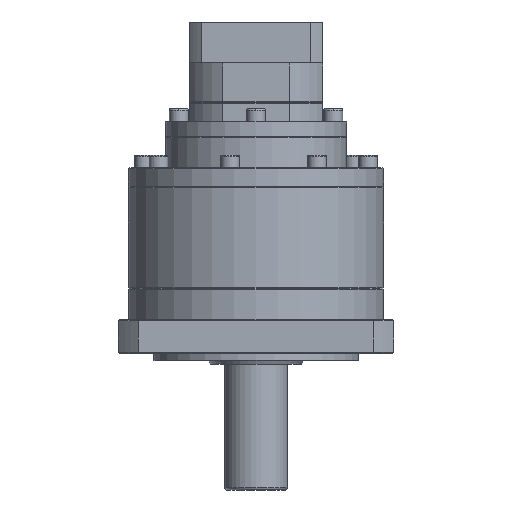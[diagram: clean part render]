
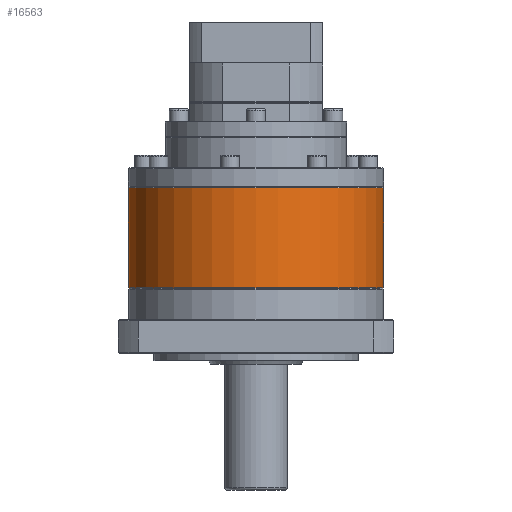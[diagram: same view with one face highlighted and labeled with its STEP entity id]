
A CAD part, front view. The second image highlights one B-rep face of the part: STEP entity #16563.
In plain terms, the highlighted cylindrical face has radius 81 mm (diameter 162 mm), a partial arc.
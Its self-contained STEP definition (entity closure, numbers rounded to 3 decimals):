
#2258 = CARTESIAN_POINT ( 'NONE',  ( 19.322, 43.717, -118.513 ) ) ;
#5491 = CARTESIAN_POINT ( 'NONE',  ( -142.678, 43.717, -119.013 ) ) ;
#5997 = VERTEX_POINT ( 'NONE', #5491 ) ;
#7835 = CARTESIAN_POINT ( 'NONE',  ( -142.678, 43.717, -118.513 ) ) ;
#9616 = DIRECTION ( 'NONE',  ( 0., 0., -1. ) ) ;
#12138 = EDGE_CURVE ( 'NONE', #24174, #49965, #49813, .T. ) ;
#16563 = ADVANCED_FACE ( 'NONE', ( #77770 ), #53756, .T. ) ;
#18168 = LINE ( 'NONE', #7835, #55872 ) ;
#23348 = DIRECTION ( 'NONE',  ( -1., 0., 0. ) ) ;
#24174 = VERTEX_POINT ( 'NONE', #41479 ) ;
#24976 = ORIENTED_EDGE ( 'NONE', *, *, #38272, .T. ) ;
#27964 = CARTESIAN_POINT ( 'NONE',  ( 19.322, 43.717, -182.513 ) ) ;
#30019 = EDGE_LOOP ( 'NONE', ( #83100, #24976, #46707, #51816 ) ) ;
#37550 = AXIS2_PLACEMENT_3D ( 'NONE', #54956, #71577, #23348 ) ;
#38272 = EDGE_CURVE ( 'NONE', #72881, #5997, #103451, .T. ) ;
#41479 = CARTESIAN_POINT ( 'NONE',  ( -142.678, 43.717, -182.513 ) ) ;
#46707 = ORIENTED_EDGE ( 'NONE', *, *, #57905, .T. ) ;
#49713 = CARTESIAN_POINT ( 'NONE',  ( -61.678, 43.717, -118.513 ) ) ;
#49813 = CIRCLE ( 'NONE', #37550, 81. ) ;
#49965 = VERTEX_POINT ( 'NONE', #27964 ) ;
#50071 = LINE ( 'NONE', #2258, #100528 ) ;
#51816 = ORIENTED_EDGE ( 'NONE', *, *, #12138, .T. ) ;
#53756 = CYLINDRICAL_SURFACE ( 'NONE', #98992, 81. ) ;
#54956 = CARTESIAN_POINT ( 'NONE',  ( -61.678, 43.717, -182.513 ) ) ;
#55270 = CARTESIAN_POINT ( 'NONE',  ( 19.322, 43.717, -119.013 ) ) ;
#55872 = VECTOR ( 'NONE', #73333, 1000. ) ;
#57905 = EDGE_CURVE ( 'NONE', #5997, #24174, #18168, .T. ) ;
#60853 = DIRECTION ( 'NONE',  ( 0., 0., -1. ) ) ;
#66317 = DIRECTION ( 'NONE',  ( -1., 0., 0. ) ) ;
#67897 = DIRECTION ( 'NONE',  ( -1., 0., 0. ) ) ;
#71577 = DIRECTION ( 'NONE',  ( 0., 0., 1. ) ) ;
#72881 = VERTEX_POINT ( 'NONE', #55270 ) ;
#73333 = DIRECTION ( 'NONE',  ( 0., 0., -1. ) ) ;
#76002 = CARTESIAN_POINT ( 'NONE',  ( -61.678, 43.717, -119.013 ) ) ;
#77770 = FACE_OUTER_BOUND ( 'NONE', #30019, .T. ) ;
#83100 = ORIENTED_EDGE ( 'NONE', *, *, #85511, .F. ) ;
#85511 = EDGE_CURVE ( 'NONE', #72881, #49965, #50071, .T. ) ;
#98063 = DIRECTION ( 'NONE',  ( 0., 0., -1. ) ) ;
#98992 = AXIS2_PLACEMENT_3D ( 'NONE', #49713, #9616, #66317 ) ;
#100528 = VECTOR ( 'NONE', #98063, 1000. ) ;
#100624 = AXIS2_PLACEMENT_3D ( 'NONE', #76002, #60853, #67897 ) ;
#103451 = CIRCLE ( 'NONE', #100624, 81. ) ;
